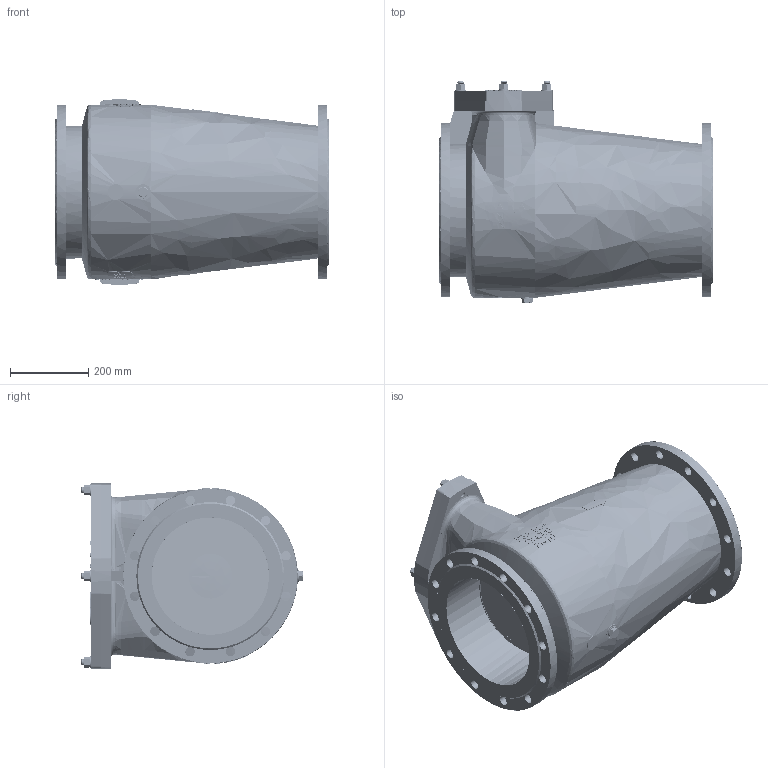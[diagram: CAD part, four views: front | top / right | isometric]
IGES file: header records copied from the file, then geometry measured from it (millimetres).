
Start section: P
Global section: file name: PSA ELA DN300 PN10.igs; native system: By Siemens PLM Incorporated; preprocessor: XPlus GENERIC/IGES 25.1.153; author: Christin-Michelle Fremgen; organization: PSA Wasserarmaturen GmbH; date: 20241016.120156; units: millimetre
Bounding box: 700 x 566.19 x 474.63 mm (x, y, z)
Surface area: 3061448.1 mm2 (no closed solid volume)
Topology: 0 solids, 0 shells, 1843 faces, 10683 edges, 10679 vertices
Faces by surface type: bspline 1843
